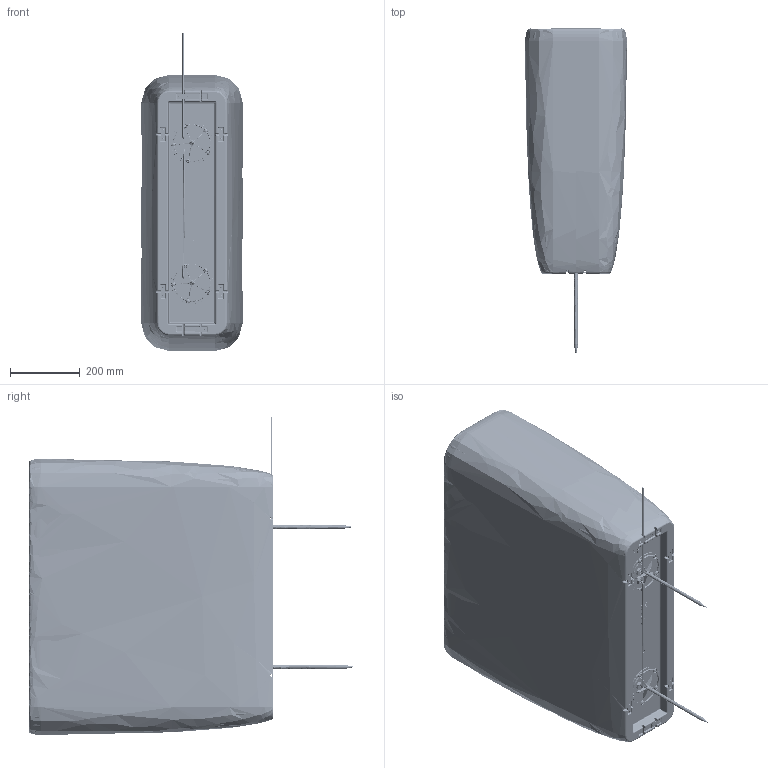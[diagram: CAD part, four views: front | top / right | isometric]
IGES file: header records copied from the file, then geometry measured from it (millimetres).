
Start section: SolidWorks IGES file using analytic representation for surfaces
Global section: file name: E:\....SOLID WORKS\...BORYS\BANKA 2\DONICA\1.12.2016\DONICA 01\DONICA 01 D£UGA zlo¿enie.IGS; native system: SolidWorks 2016; preprocessor: SolidWorks 2016; author: DELL; date: 170419.131418; units: millimetre
Bounding box: 290 x 934.48 x 909.7 mm (x, y, z)
Surface area: 4256514.6 mm2 (no closed solid volume)
Topology: 0 solids, 0 shells, 4612 faces, 48194 edges, 48114 vertices
Faces by surface type: bspline 3066, revolution 1546
